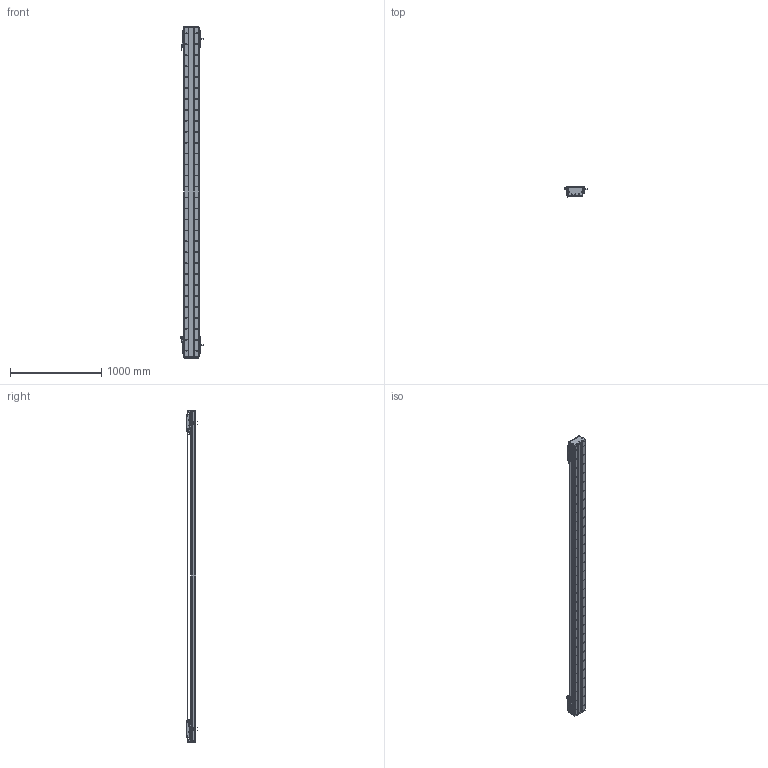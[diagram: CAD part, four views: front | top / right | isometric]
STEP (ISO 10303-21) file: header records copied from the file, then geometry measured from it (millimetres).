
FILE_DESCRIPTION (( 'STEP AP203' ), '1' );
FILE_NAME ('DA-C165-2-C2-T3140-C010-0.2 直线电机.STEP', '2023-05-11T08:34:06', ( '微软用户' ), ( '微软中国' ), 'SwSTEP 2.0', 'SolidWorks 2019', '' );
FILE_SCHEMA (( 'CONFIG_CONTROL_DESIGN' ));
Length unit declared in the file: millimetre
Products named in the file (22): 复件 DA126-GYP-ZJ-00 中间光电感应片^DA-C165-C2-T-C010-0.2-N 直线电机; 葩璃 DA95-GT-T-00^IU-CU165-L 菁釱絳寢_T; 复件 CU165钢带组件^DA-C165-C2-T-C010-0.2-N 直线电机; 复件 DA165-GDLK-00 钢带拉块^复件 CU165钢带组件_DA-C165-C2-T-C010-0.2-N 直线电机; 复件 66338-1000-006-00 光电感应块^DA-C165-C2-T-C010-0.2-N 直线电机; 葩璃 PM-T45^DA-C165-C2-T-C010-0.2-N 眻盄萇儂; 复件 六角薄螺母 M3^DA-C165-C2-T-C010-0.2-N 直线电机_GB_FASTENER_NUT_STNAB M3-C; 复件 DA95-HXJ-00 缓冲橡胶^DA-C165-C2-T-C010-0.2-N 直线电机; DA-C165-2-C2-T3140-C010-0.2 眻盄萇儂; 珨极趙賑雄怢啣wf-C2; 复件 CKM02-W075-C1C2-TP-3.0 一体电机-C2^DA-C165-C2-T-C010-0.2-N 直线电机; 复件 DA165-GYP-00 光电感应片^DA-C165-C2-T-C010-0.2-N 直线电机; 复件 DA165-GDYK-00 钢带压块^复件 CU165钢带组件_DA-C165-C2-T-C010-0.2-N 直线电机; 复件 XD-U-02L 磁栅尺^DA-C165-C2-T-C010-0.2-N 直线电机_T; 葩璃 PM-Y45^DA-C165-C2-T-C010-0.2-N 眻盄萇儂; IU-CU165-L 菁釱絳寢; 复件 DA165-GD-DG-H-00 端盖^复件 CU165钢带组件_DA-C165-C2-T-C010-0.2-N 直线电机; 复件 DKW-HXJ-JY-00 缓冲橡胶^DA-C165-C2-T-C010-0.2-N 直线电机; IU-CU165-L-00 菁釱_L3600; 复件 DA165-GD-1860-002-00 钢带盖板^复件 CU165钢带组件_DA-C165-C2-T-C010-0.2-N 直线电机; 复件 DMA-010-0.2 读数头^DA-C165-C2-T-C010-0.2-N 直线电机; 葩璃 CKM01-W075-TRL^DA-C165-C2-T-C010-0.2-N 眻盄萇儂
Assembly tree (43 placements, depth 3):
  DA-C165-2-C2-T3140-C010-0.2 眻盄萇儂
    IU-CU165-L 菁釱絳寢
      IU-CU165-L-00 菁釱_L3600
      葩璃 DA95-GT-T-00^IU-CU165-L 菁釱絳寢_T  x4
    复件 XD-U-02L 磁栅尺^DA-C165-C2-T-C010-0.2-N 直线电机_T
    葩璃 PM-T45^DA-C165-C2-T-C010-0.2-N 眻盄萇儂  x4
    葩璃 CKM01-W075-TRL^DA-C165-C2-T-C010-0.2-N 眻盄萇儂
    复件 CU165钢带组件^DA-C165-C2-T-C010-0.2-N 直线电机
      复件 DA165-GD-DG-H-00 端盖^复件 CU165钢带组件_DA-C165-C2-T-C010-0.2-N 直线电机  x2
      复件 DA165-GDYK-00 钢带压块^复件 CU165钢带组件_DA-C165-C2-T-C010-0.2-N 直线电机  x2
      复件 DA165-GD-1860-002-00 钢带盖板^复件 CU165钢带组件_DA-C165-C2-T-C010-0.2-N 直线电机
      复件 DA165-GDLK-00 钢带拉块^复件 CU165钢带组件_DA-C165-C2-T-C010-0.2-N 直线电机  x2
    复件 DA95-HXJ-00 缓冲橡胶^DA-C165-C2-T-C010-0.2-N 直线电机  x4
    复件 CKM02-W075-C1C2-TP-3.0 一体电机-C2^DA-C165-C2-T-C010-0.2-N 直线电机  x2
    复件 DMA-010-0.2 读数头^DA-C165-C2-T-C010-0.2-N 直线电机  x2
    复件 DA165-GYP-00 光电感应片^DA-C165-C2-T-C010-0.2-N 直线电机  x2
    复件 66338-1000-006-00 光电感应块^DA-C165-C2-T-C010-0.2-N 直线电机
    葩璃 PM-Y45^DA-C165-C2-T-C010-0.2-N 眻盄萇儂
    复件 DA126-GYP-ZJ-00 中间光电感应片^DA-C165-C2-T-C010-0.2-N 直线电机
    复件 DKW-HXJ-JY-00 缓冲橡胶^DA-C165-C2-T-C010-0.2-N 直线电机  x2
    复件 六角薄螺母 M3^DA-C165-C2-T-C010-0.2-N 直线电机_GB_FASTENER_NUT_STNAB M3-C  x6
    珨极趙賑雄怢啣wf-C2  x2
Bounding box: 247.2 x 111.45 x 3640 mm (x, y, z)
Volume: 21040275.4 mm3; surface area: 6256260 mm2
Topology: 119 solids, 119 shells, 6155 faces, 17766 edges, 11290 vertices
Faces by surface type: cylinder 3524, plane 1839, cone 704, torus 80, sphere 8
Entity records: 161274 total; most frequent: CARTESIAN_POINT 45365, ORIENTED_EDGE 24476, DIRECTION 23022, EDGE_CURVE 12238, AXIS2_PLACEMENT_3D 8800, VERTEX_POINT 8027, EDGE_LOOP 5517, VECTOR 5422
